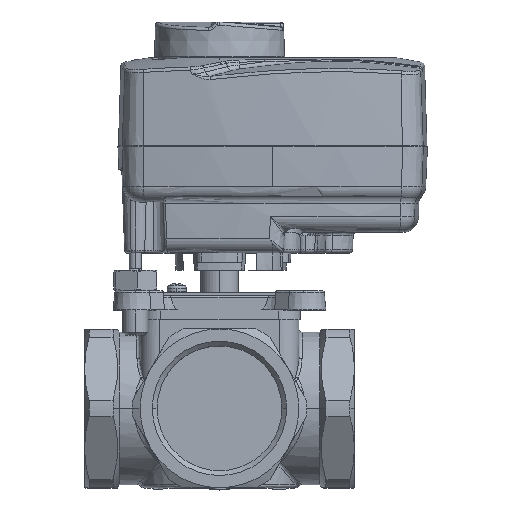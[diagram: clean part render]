
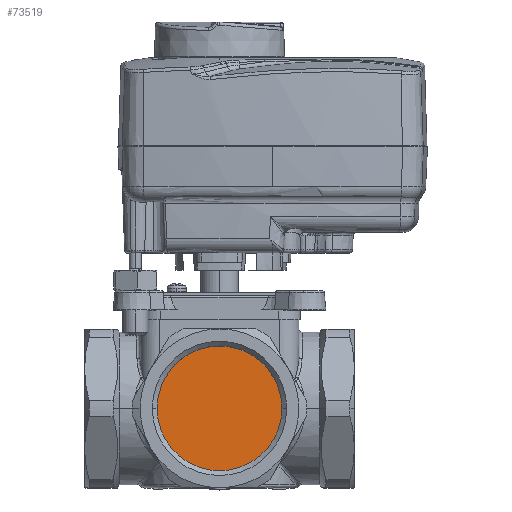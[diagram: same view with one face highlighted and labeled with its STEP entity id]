
A CAD part, top view. The second image highlights one B-rep face of the part: STEP entity #73519.
In plain terms, the highlighted planar face has unit normal (0, 0, 1).
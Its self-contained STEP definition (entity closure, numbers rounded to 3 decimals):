
#5824 = ORIENTED_EDGE ( 'NONE', *, *, #77776, .F. ) ;
#7695 = AXIS2_PLACEMENT_3D ( 'NONE', #54486, #13404, #61303 ) ;
#11834 = FACE_OUTER_BOUND ( 'NONE', #62093, .T. ) ;
#13404 = DIRECTION ( 'NONE',  ( 0., 0., -1. ) ) ;
#19752 = EDGE_CURVE ( 'NONE', #34172, #55656, #75444, .T. ) ;
#21319 = DIRECTION ( 'NONE',  ( 0., 0., 1. ) ) ;
#27901 = CARTESIAN_POINT ( 'NONE',  ( -19.886, 19.886, 23.5 ) ) ;
#30966 = CARTESIAN_POINT ( 'NONE',  ( 0., 0., 23.5 ) ) ;
#34172 = VERTEX_POINT ( 'NONE', #82637 ) ;
#37861 = DIRECTION ( 'NONE',  ( 1., 0., 0. ) ) ;
#54486 = CARTESIAN_POINT ( 'NONE',  ( 0., 0., 23.5 ) ) ;
#55444 = PLANE ( 'NONE',  #72842 ) ;
#55656 = VERTEX_POINT ( 'NONE', #79785 ) ;
#61303 = DIRECTION ( 'NONE',  ( 1., 0., 0. ) ) ;
#61930 = ORIENTED_EDGE ( 'NONE', *, *, #19752, .F. ) ;
#62093 = EDGE_LOOP ( 'NONE', ( #61930, #5824 ) ) ;
#69169 = DIRECTION ( 'NONE',  ( 0., -1., 0. ) ) ;
#72842 = AXIS2_PLACEMENT_3D ( 'NONE', #27901, #21319, #69169 ) ;
#73519 = ADVANCED_FACE ( 'NONE', ( #11834 ), #55444, .T. ) ;
#73535 = CIRCLE ( 'NONE', #77574, 19.65 ) ;
#75444 = CIRCLE ( 'NONE', #7695, 19.65 ) ;
#77574 = AXIS2_PLACEMENT_3D ( 'NONE', #30966, #78847, #37861 ) ;
#77776 = EDGE_CURVE ( 'NONE', #55656, #34172, #73535, .T. ) ;
#78847 = DIRECTION ( 'NONE',  ( 0., 0., -1. ) ) ;
#79785 = CARTESIAN_POINT ( 'NONE',  ( -19.65, 0., 23.5 ) ) ;
#82637 = CARTESIAN_POINT ( 'NONE',  ( 19.65, 0., 23.5 ) ) ;
